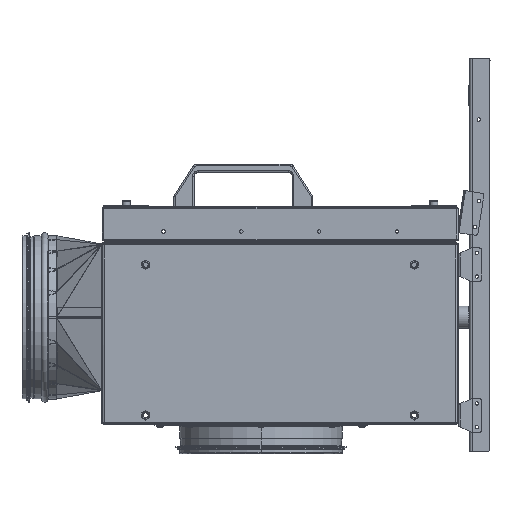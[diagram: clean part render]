
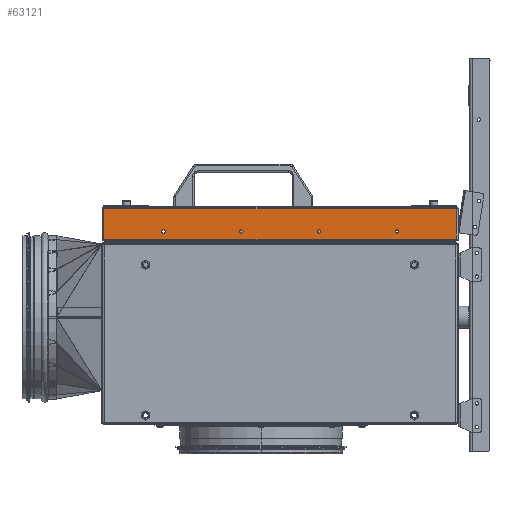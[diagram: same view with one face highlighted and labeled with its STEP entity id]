
A CAD part, left-side view. The second image highlights one B-rep face of the part: STEP entity #63121.
In plain terms, the highlighted planar face has unit normal (-1, 0, 0).
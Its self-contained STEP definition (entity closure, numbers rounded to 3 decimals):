
#10063 = AXIS2_PLACEMENT_3D ( 'NONE', #84436, #84420, #84448 ) ;
#10557 = AXIS2_PLACEMENT_3D ( 'NONE', #14751, #14752, #14753 ) ;
#11085 = AXIS2_PLACEMENT_3D ( 'NONE', #14732, #14733, #14734 ) ;
#14146 = CARTESIAN_POINT ( 'NONE',  ( -246.065, 216.34, 263.4 ) ) ;
#14149 = DIRECTION ( 'NONE',  ( 0., -1., 0. ) ) ;
#14675 = CARTESIAN_POINT ( 'NONE',  ( -246.065, -215.34, 224.9 ) ) ;
#14676 = DIRECTION ( 'NONE',  ( 0., 0., 1. ) ) ;
#14732 = CARTESIAN_POINT ( 'NONE',  ( -246.065, 142.14, 235.4 ) ) ;
#14733 = DIRECTION ( 'NONE',  ( 1., 0., 0. ) ) ;
#14734 = DIRECTION ( 'NONE',  ( 0., 0., -1. ) ) ;
#14751 = CARTESIAN_POINT ( 'NONE',  ( -246.065, 47.14, 235.4 ) ) ;
#14752 = DIRECTION ( 'NONE',  ( 1., 0., 0. ) ) ;
#14753 = DIRECTION ( 'NONE',  ( 0., 0., -1. ) ) ;
#15939 = AXIS2_PLACEMENT_3D ( 'NONE', #29581, #29582, #29583 ) ;
#16216 = AXIS2_PLACEMENT_3D ( 'NONE', #36911, #36912, #36913 ) ;
#16601 = AXIS2_PLACEMENT_3D ( 'NONE', #89907, #89910, #89912 ) ;
#16715 = AXIS2_PLACEMENT_3D ( 'NONE', #37160, #37162, #37164 ) ;
#17880 = EDGE_CURVE ( 'NONE', #22242, #22232, #30471, .T. ) ;
#18471 = EDGE_CURVE ( 'NONE', #46393, #22267, #73500, .T. ) ;
#18626 = EDGE_CURVE ( 'NONE', #22252, #22211, #74196, .T. ) ;
#18871 = EDGE_CURVE ( 'NONE', #22211, #22252, #75207, .T. ) ;
#18911 = EDGE_CURVE ( 'NONE', #22210, #22359, #75325, .T. ) ;
#19165 = EDGE_CURVE ( 'NONE', #22359, #22210, #76034, .T. ) ;
#19173 = EDGE_CURVE ( 'NONE', #22391, #22234, #76052, .T. ) ;
#22210 = VERTEX_POINT ( 'NONE', #44926 ) ;
#22211 = VERTEX_POINT ( 'NONE', #44927 ) ;
#22232 = VERTEX_POINT ( 'NONE', #44948 ) ;
#22234 = VERTEX_POINT ( 'NONE', #44950 ) ;
#22242 = VERTEX_POINT ( 'NONE', #44958 ) ;
#22252 = VERTEX_POINT ( 'NONE', #44968 ) ;
#22267 = VERTEX_POINT ( 'NONE', #44983 ) ;
#22359 = VERTEX_POINT ( 'NONE', #45075 ) ;
#22391 = VERTEX_POINT ( 'NONE', #45107 ) ;
#22641 = VERTEX_POINT ( 'NONE', #45357 ) ;
#22644 = VERTEX_POINT ( 'NONE', #45360 ) ;
#23732 = ORIENTED_EDGE ( 'NONE', *, *, #78627, .T. ) ;
#23733 = ORIENTED_EDGE ( 'NONE', *, *, #19173, .T. ) ;
#23734 = ORIENTED_EDGE ( 'NONE', *, *, #78612, .T. ) ;
#23735 = ORIENTED_EDGE ( 'NONE', *, *, #17880, .T. ) ;
#23736 = ORIENTED_EDGE ( 'NONE', *, *, #78575, .T. ) ;
#23737 = ORIENTED_EDGE ( 'NONE', *, *, #78171, .F. ) ;
#23738 = ORIENTED_EDGE ( 'NONE', *, *, #18471, .T. ) ;
#23739 = ORIENTED_EDGE ( 'NONE', *, *, #78652, .T. ) ;
#23740 = ORIENTED_EDGE ( 'NONE', *, *, #18871, .T. ) ;
#23741 = ORIENTED_EDGE ( 'NONE', *, *, #18626, .T. ) ;
#23742 = ORIENTED_EDGE ( 'NONE', *, *, #19165, .T. ) ;
#23743 = ORIENTED_EDGE ( 'NONE', *, *, #18911, .T. ) ;
#29581 = CARTESIAN_POINT ( 'NONE',  ( -246.065, 142.14, 235.4 ) ) ;
#29582 = DIRECTION ( 'NONE',  ( 1., 0., 0. ) ) ;
#29583 = DIRECTION ( 'NONE',  ( 0., 0., -1. ) ) ;
#30471 = CIRCLE ( 'NONE', #15939, 2.1 ) ;
#32827 = EDGE_LOOP ( 'NONE', ( #23736, #23737, #23738, #23739 ) ) ;
#32976 = EDGE_LOOP ( 'NONE', ( #23734, #23735 ) ) ;
#32982 = EDGE_LOOP ( 'NONE', ( #23742, #23743 ) ) ;
#33630 = EDGE_LOOP ( 'NONE', ( #23732, #23733 ) ) ;
#34115 = EDGE_LOOP ( 'NONE', ( #23740, #23741 ) ) ;
#36911 = CARTESIAN_POINT ( 'NONE',  ( -246.065, -47.86, 235.4 ) ) ;
#36912 = DIRECTION ( 'NONE',  ( 1., 0., 0. ) ) ;
#36913 = DIRECTION ( 'NONE',  ( 0., 0., -1. ) ) ;
#37160 = CARTESIAN_POINT ( 'NONE',  ( -246.065, -142.86, 235.4 ) ) ;
#37162 = DIRECTION ( 'NONE',  ( 1., 0., 0. ) ) ;
#37164 = DIRECTION ( 'NONE',  ( 0., 0., -1. ) ) ;
#44482 = CARTESIAN_POINT ( 'NONE',  ( -246.065, -142.86, 235.4 ) ) ;
#44483 = DIRECTION ( 'NONE',  ( 1., 0., 0. ) ) ;
#44484 = DIRECTION ( 'NONE',  ( 0., 0., -1. ) ) ;
#44519 = CARTESIAN_POINT ( 'NONE',  ( -246.065, 47.14, 235.4 ) ) ;
#44520 = DIRECTION ( 'NONE',  ( 1., 0., 0. ) ) ;
#44521 = DIRECTION ( 'NONE',  ( 0., 0., -1. ) ) ;
#44926 = CARTESIAN_POINT ( 'NONE',  ( -246.065, -142.86, 237.5 ) ) ;
#44927 = CARTESIAN_POINT ( 'NONE',  ( -246.065, -47.86, 233.3 ) ) ;
#44948 = CARTESIAN_POINT ( 'NONE',  ( -246.065, 142.14, 233.3 ) ) ;
#44950 = CARTESIAN_POINT ( 'NONE',  ( -246.065, 47.14, 233.3 ) ) ;
#44958 = CARTESIAN_POINT ( 'NONE',  ( -246.065, 142.14, 237.5 ) ) ;
#44968 = CARTESIAN_POINT ( 'NONE',  ( -246.065, -47.86, 237.5 ) ) ;
#44983 = CARTESIAN_POINT ( 'NONE',  ( -246.065, 215.14, 224.9 ) ) ;
#45075 = CARTESIAN_POINT ( 'NONE',  ( -246.065, -142.86, 233.3 ) ) ;
#45107 = CARTESIAN_POINT ( 'NONE',  ( -246.065, 47.14, 237.5 ) ) ;
#45357 = CARTESIAN_POINT ( 'NONE',  ( -246.065, -215.34, 224.9 ) ) ;
#45360 = CARTESIAN_POINT ( 'NONE',  ( -246.065, -215.34, 263.4 ) ) ;
#46393 = VERTEX_POINT ( 'NONE', #62122 ) ;
#49302 = AXIS2_PLACEMENT_3D ( 'NONE', #44482, #44483, #44484 ) ;
#49303 = AXIS2_PLACEMENT_3D ( 'NONE', #44519, #44520, #44521 ) ;
#62122 = CARTESIAN_POINT ( 'NONE',  ( -246.065, 215.14, 263.4 ) ) ;
#63121 = ADVANCED_FACE ( 'NONE', ( #78741, #78756, #78748, #78744, #78752 ), #84429, .F. ) ;
#63897 = CARTESIAN_POINT ( 'NONE',  ( -246.065, 215.14, 263.4 ) ) ;
#63901 = DIRECTION ( 'NONE',  ( 0., 0., -1. ) ) ;
#73500 = LINE ( 'NONE', #63897, #73587 ) ;
#73587 = VECTOR ( 'NONE', #63901, 1000. ) ;
#74196 = CIRCLE ( 'NONE', #16601, 2.1 ) ;
#75207 = CIRCLE ( 'NONE', #16216, 2.1 ) ;
#75325 = CIRCLE ( 'NONE', #16715, 2.1 ) ;
#76034 = CIRCLE ( 'NONE', #49302, 2.1 ) ;
#76052 = CIRCLE ( 'NONE', #49303, 2.1 ) ;
#78171 = EDGE_CURVE ( 'NONE', #46393, #22644, #95679, .T. ) ;
#78575 = EDGE_CURVE ( 'NONE', #22641, #22644, #95896, .T. ) ;
#78612 = EDGE_CURVE ( 'NONE', #22232, #22242, #95920, .T. ) ;
#78627 = EDGE_CURVE ( 'NONE', #22234, #22391, #95930, .T. ) ;
#78652 = EDGE_CURVE ( 'NONE', #22267, #22641, #95947, .T. ) ;
#78741 = FACE_BOUND ( 'NONE', #33630, .T. ) ;
#78744 = FACE_BOUND ( 'NONE', #34115, .T. ) ;
#78748 = FACE_OUTER_BOUND ( 'NONE', #32827, .T. ) ;
#78752 = FACE_BOUND ( 'NONE', #32982, .T. ) ;
#78756 = FACE_BOUND ( 'NONE', #32976, .T. ) ;
#84420 = DIRECTION ( 'NONE',  ( 1., 0., 0. ) ) ;
#84429 = PLANE ( 'NONE',  #10063 ) ;
#84436 = CARTESIAN_POINT ( 'NONE',  ( -246.065, 216.34, 264.6 ) ) ;
#84448 = DIRECTION ( 'NONE',  ( 0., 0., -1. ) ) ;
#88597 = CARTESIAN_POINT ( 'NONE',  ( -246.065, -216.54, 224.9 ) ) ;
#88600 = DIRECTION ( 'NONE',  ( 0., -1., 0. ) ) ;
#89907 = CARTESIAN_POINT ( 'NONE',  ( -246.065, -47.86, 235.4 ) ) ;
#89910 = DIRECTION ( 'NONE',  ( 1., 0., 0. ) ) ;
#89912 = DIRECTION ( 'NONE',  ( 0., 0., -1. ) ) ;
#95679 = LINE ( 'NONE', #14146, #95682 ) ;
#95682 = VECTOR ( 'NONE', #14149, 1000. ) ;
#95896 = LINE ( 'NONE', #14675, #95898 ) ;
#95898 = VECTOR ( 'NONE', #14676, 1000. ) ;
#95920 = CIRCLE ( 'NONE', #11085, 2.1 ) ;
#95930 = CIRCLE ( 'NONE', #10557, 2.1 ) ;
#95947 = LINE ( 'NONE', #88597, #95949 ) ;
#95949 = VECTOR ( 'NONE', #88600, 1000. ) ;
